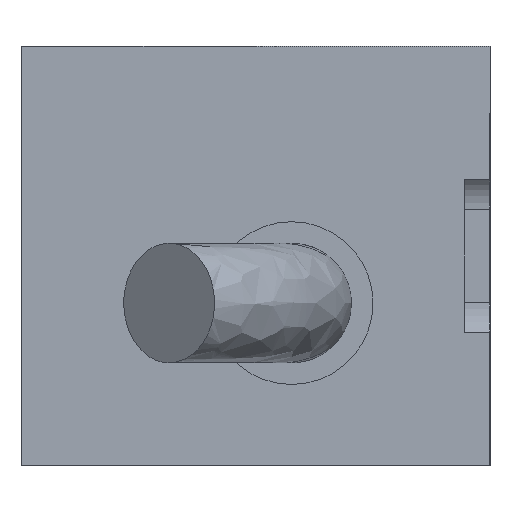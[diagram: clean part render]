
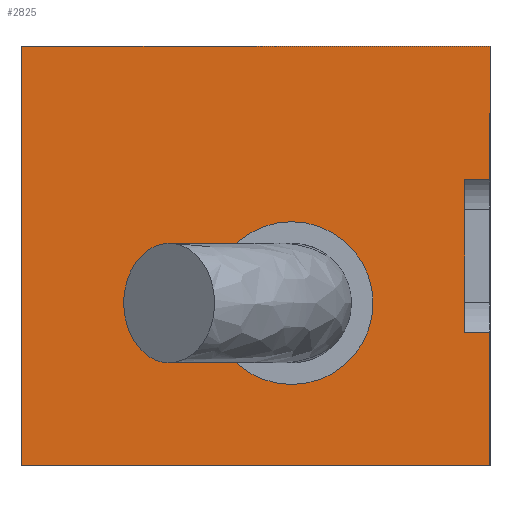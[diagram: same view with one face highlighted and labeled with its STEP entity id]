
A CAD part, left-side view. The second image highlights one B-rep face of the part: STEP entity #2825.
In plain terms, the highlighted planar face has unit normal (-1, 0, 0).
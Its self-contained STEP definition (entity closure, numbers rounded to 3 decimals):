
#117 = CARTESIAN_POINT ( 'NONE',  ( -18., 1., -3. ) ) ;
#123 = DIRECTION ( 'NONE',  ( 0., 0., -1. ) ) ;
#131 = DIRECTION ( 'NONE',  ( 0., -1., 0. ) ) ;
#166 = LINE ( 'NONE', #3265, #4189 ) ;
#168 = EDGE_CURVE ( 'NONE', #1314, #1515, #964, .T. ) ;
#206 = CARTESIAN_POINT ( 'NONE',  ( -18., 18.4, 8.25 ) ) ;
#301 = CIRCLE ( 'NONE', #2371, 3.2 ) ;
#360 = LINE ( 'NONE', #4718, #4653 ) ;
#530 = CIRCLE ( 'NONE', #2018, 3.2 ) ;
#572 = LINE ( 'NONE', #3394, #2684 ) ;
#661 = PLANE ( 'NONE',  #3485 ) ;
#751 = ORIENTED_EDGE ( 'NONE', *, *, #2962, .F. ) ;
#771 = DIRECTION ( 'NONE',  ( 0., 0., -1. ) ) ;
#834 = VERTEX_POINT ( 'NONE', #117 ) ;
#939 = EDGE_CURVE ( 'NONE', #2284, #2878, #166, .T. ) ;
#964 = LINE ( 'NONE', #3530, #3273 ) ;
#967 = EDGE_CURVE ( 'NONE', #3637, #2077, #530, .T. ) ;
#983 = DIRECTION ( 'NONE',  ( 1., 0., 0. ) ) ;
#994 = ORIENTED_EDGE ( 'NONE', *, *, #2803, .F. ) ;
#1000 = CARTESIAN_POINT ( 'NONE',  ( -18., 18.4, -3. ) ) ;
#1133 = CARTESIAN_POINT ( 'NONE',  ( -18., 0., 8.25 ) ) ;
#1170 = LINE ( 'NONE', #3164, #4045 ) ;
#1219 = VECTOR ( 'NONE', #771, 1000. ) ;
#1314 = VERTEX_POINT ( 'NONE', #4801 ) ;
#1322 = DIRECTION ( 'NONE',  ( 0., 0., 1. ) ) ;
#1342 = CARTESIAN_POINT ( 'NONE',  ( -18., 7.8, -1.85 ) ) ;
#1347 = CARTESIAN_POINT ( 'NONE',  ( -18., 0., 8.25 ) ) ;
#1388 = DIRECTION ( 'NONE',  ( 0., -1., 0. ) ) ;
#1493 = ORIENTED_EDGE ( 'NONE', *, *, #1843, .F. ) ;
#1500 = ORIENTED_EDGE ( 'NONE', *, *, #2011, .F. ) ;
#1515 = VERTEX_POINT ( 'NONE', #3958 ) ;
#1524 = CARTESIAN_POINT ( 'NONE',  ( -18., 18.4, 8.25 ) ) ;
#1543 = ORIENTED_EDGE ( 'NONE', *, *, #3062, .F. ) ;
#1843 = EDGE_CURVE ( 'NONE', #834, #4638, #2995, .T. ) ;
#1953 = EDGE_LOOP ( 'NONE', ( #1543, #1500, #2395, #4472, #994, #1493, #751, #2719 ) ) ;
#2008 = DIRECTION ( 'NONE',  ( 0., 0., -1. ) ) ;
#2011 = EDGE_CURVE ( 'NONE', #2113, #3055, #572, .T. ) ;
#2018 = AXIS2_PLACEMENT_3D ( 'NONE', #4921, #4521, #2965 ) ;
#2031 = FACE_BOUND ( 'NONE', #3409, .T. ) ;
#2034 = LINE ( 'NONE', #2320, #1219 ) ;
#2077 = VERTEX_POINT ( 'NONE', #3817 ) ;
#2113 = VERTEX_POINT ( 'NONE', #1524 ) ;
#2284 = VERTEX_POINT ( 'NONE', #2384 ) ;
#2291 = CARTESIAN_POINT ( 'NONE',  ( -18., 0., -8.25 ) ) ;
#2320 = CARTESIAN_POINT ( 'NONE',  ( -18., 0., 8.25 ) ) ;
#2371 = AXIS2_PLACEMENT_3D ( 'NONE', #1342, #3252, #1322 ) ;
#2384 = CARTESIAN_POINT ( 'NONE',  ( -18., 18.4, -8.25 ) ) ;
#2395 = ORIENTED_EDGE ( 'NONE', *, *, #5000, .T. ) ;
#2684 = VECTOR ( 'NONE', #4160, 1000. ) ;
#2719 = ORIENTED_EDGE ( 'NONE', *, *, #168, .F. ) ;
#2803 = EDGE_CURVE ( 'NONE', #4638, #2878, #3042, .T. ) ;
#2825 = ADVANCED_FACE ( 'NONE', ( #2031, #3213 ), #661, .F. ) ;
#2878 = VERTEX_POINT ( 'NONE', #2291 ) ;
#2962 = EDGE_CURVE ( 'NONE', #1515, #834, #360, .T. ) ;
#2965 = DIRECTION ( 'NONE',  ( 0., 0., 1. ) ) ;
#2995 = LINE ( 'NONE', #1000, #4163 ) ;
#3042 = LINE ( 'NONE', #1347, #3399 ) ;
#3055 = VERTEX_POINT ( 'NONE', #1133 ) ;
#3062 = EDGE_CURVE ( 'NONE', #3055, #1314, #2034, .T. ) ;
#3164 = CARTESIAN_POINT ( 'NONE',  ( -18., 18.4, 0. ) ) ;
#3187 = ORIENTED_EDGE ( 'NONE', *, *, #3278, .F. ) ;
#3213 = FACE_OUTER_BOUND ( 'NONE', #1953, .T. ) ;
#3252 = DIRECTION ( 'NONE',  ( -1., 0., 0. ) ) ;
#3265 = CARTESIAN_POINT ( 'NONE',  ( -18., 18.4, -8.25 ) ) ;
#3273 = VECTOR ( 'NONE', #4352, 1000. ) ;
#3278 = EDGE_CURVE ( 'NONE', #2077, #3637, #301, .T. ) ;
#3394 = CARTESIAN_POINT ( 'NONE',  ( -18., 18.4, 8.25 ) ) ;
#3399 = VECTOR ( 'NONE', #123, 1000. ) ;
#3409 = EDGE_LOOP ( 'NONE', ( #3675, #3187 ) ) ;
#3461 = DIRECTION ( 'NONE',  ( 0., 0., -1. ) ) ;
#3485 = AXIS2_PLACEMENT_3D ( 'NONE', #206, #983, #4149 ) ;
#3530 = CARTESIAN_POINT ( 'NONE',  ( -18., 18.4, 3. ) ) ;
#3637 = VERTEX_POINT ( 'NONE', #4889 ) ;
#3675 = ORIENTED_EDGE ( 'NONE', *, *, #967, .F. ) ;
#3817 = CARTESIAN_POINT ( 'NONE',  ( -18., 7.8, -5.05 ) ) ;
#3958 = CARTESIAN_POINT ( 'NONE',  ( -18., 1., 3. ) ) ;
#4045 = VECTOR ( 'NONE', #2008, 1000. ) ;
#4091 = CARTESIAN_POINT ( 'NONE',  ( -18., 0., -3. ) ) ;
#4149 = DIRECTION ( 'NONE',  ( 0., 0., -1. ) ) ;
#4160 = DIRECTION ( 'NONE',  ( 0., -1., 0. ) ) ;
#4163 = VECTOR ( 'NONE', #1388, 1000. ) ;
#4189 = VECTOR ( 'NONE', #131, 1000. ) ;
#4352 = DIRECTION ( 'NONE',  ( 0., 1., 0. ) ) ;
#4472 = ORIENTED_EDGE ( 'NONE', *, *, #939, .T. ) ;
#4521 = DIRECTION ( 'NONE',  ( -1., 0., 0. ) ) ;
#4638 = VERTEX_POINT ( 'NONE', #4091 ) ;
#4653 = VECTOR ( 'NONE', #3461, 1000. ) ;
#4718 = CARTESIAN_POINT ( 'NONE',  ( -18., 1., 8.25 ) ) ;
#4801 = CARTESIAN_POINT ( 'NONE',  ( -18., 0., 3. ) ) ;
#4889 = CARTESIAN_POINT ( 'NONE',  ( -18., 7.8, 1.35 ) ) ;
#4921 = CARTESIAN_POINT ( 'NONE',  ( -18., 7.8, -1.85 ) ) ;
#5000 = EDGE_CURVE ( 'NONE', #2113, #2284, #1170, .T. ) ;
